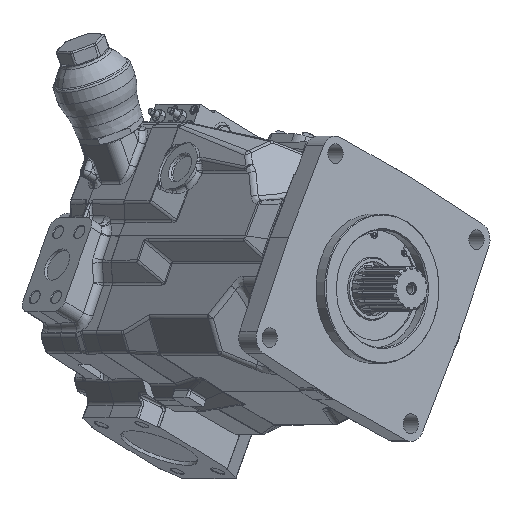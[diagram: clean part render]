
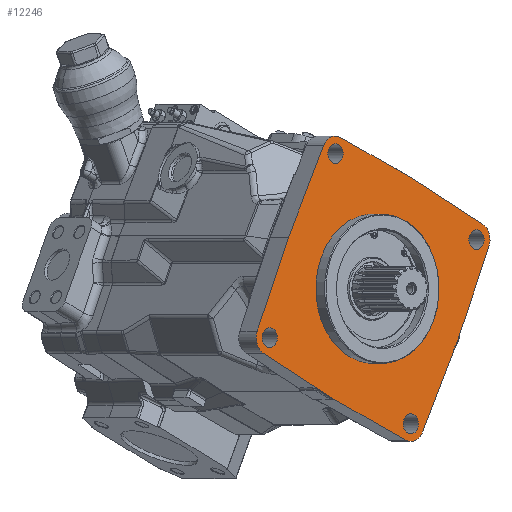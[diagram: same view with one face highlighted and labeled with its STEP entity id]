
A CAD part, top view. The second image highlights one B-rep face of the part: STEP entity #12246.
In plain terms, the highlighted planar face has unit normal (0.643, 0, 0.766) as drawn and (0, 1, 0) by its records, which use the part's own axes.
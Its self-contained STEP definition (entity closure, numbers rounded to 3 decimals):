
#1493=LINE('',#63303,#3785);
#1498=LINE('',#63377,#3790);
#1504=LINE('',#63561,#3796);
#1509=LINE('',#63585,#3801);
#1514=LINE('',#63831,#3806);
#1519=LINE('',#63864,#3811);
#1526=LINE('',#64028,#3818);
#1529=LINE('',#64101,#3821);
#3785=VECTOR('',#50872,1.);
#3790=VECTOR('',#50881,1.);
#3796=VECTOR('',#50893,1.);
#3801=VECTOR('',#50904,1.);
#3806=VECTOR('',#50913,1.);
#3811=VECTOR('',#50920,1.);
#3818=VECTOR('',#50933,1.);
#3821=VECTOR('',#50940,1.);
#6441=B_SPLINE_CURVE_WITH_KNOTS('',3,(#72012,#72013,#72014,#72015),.UNSPECIFIED.,
 .F.,.F.,(4,4),(0.,1.),.UNSPECIFIED.);
#6442=B_SPLINE_CURVE_WITH_KNOTS('',3,(#72078,#72079,#72080,#72081),.UNSPECIFIED.,
 .F.,.F.,(4,4),(0.,1.),.UNSPECIFIED.);
#12246=ADVANCED_FACE('',(#15428,#15429,#15430,#15431,#15432,#15433),#14580,
 .F.);
#14580=PLANE('',#46375);
#15428=FACE_BOUND('',#17196,.T.);
#15429=FACE_BOUND('',#17197,.T.);
#15430=FACE_BOUND('',#17198,.T.);
#15431=FACE_BOUND('',#17199,.T.);
#15432=FACE_BOUND('',#17200,.T.);
#15433=FACE_BOUND('',#17201,.T.);
#17196=EDGE_LOOP('',(#23268));
#17197=EDGE_LOOP('',(#23269));
#17198=EDGE_LOOP('',(#23270));
#17199=EDGE_LOOP('',(#23271));
#17200=EDGE_LOOP('',(#23272,#23273,#23274,#23275,#23276,#23277,#23278,#23279,
#23280,#23281,#23282,#23283,#23284,#23285));
#17201=EDGE_LOOP('',(#23286));
#23268=ORIENTED_EDGE('',*,*,#36871,.T.);
#23269=ORIENTED_EDGE('',*,*,#36873,.T.);
#23270=ORIENTED_EDGE('',*,*,#36875,.T.);
#23271=ORIENTED_EDGE('',*,*,#36877,.T.);
#23272=ORIENTED_EDGE('',*,*,#37457,.T.);
#23273=ORIENTED_EDGE('',*,*,#37083,.T.);
#23274=ORIENTED_EDGE('',*,*,#37048,.F.);
#23275=ORIENTED_EDGE('',*,*,#37451,.T.);
#23276=ORIENTED_EDGE('',*,*,#37057,.F.);
#23277=ORIENTED_EDGE('',*,*,#37026,.T.);
#23278=ORIENTED_EDGE('',*,*,#37453,.T.);
#23279=ORIENTED_EDGE('',*,*,#37013,.T.);
#23280=ORIENTED_EDGE('',*,*,#38444,.F.);
#23281=ORIENTED_EDGE('',*,*,#38447,.F.);
#23282=ORIENTED_EDGE('',*,*,#37108,.F.);
#23283=ORIENTED_EDGE('',*,*,#37455,.T.);
#23284=ORIENTED_EDGE('',*,*,#37121,.F.);
#23285=ORIENTED_EDGE('',*,*,#37090,.T.);
#23286=ORIENTED_EDGE('',*,*,#38459,.T.);
#32738=VERTEX_POINT('',#62979);
#32740=VERTEX_POINT('',#62984);
#32742=VERTEX_POINT('',#62989);
#32744=VERTEX_POINT('',#62994);
#32843=VERTEX_POINT('',#63302);
#32844=VERTEX_POINT('',#63304);
#32856=VERTEX_POINT('',#63376);
#32857=VERTEX_POINT('',#63378);
#32874=VERTEX_POINT('',#63560);
#32875=VERTEX_POINT('',#63562);
#32883=VERTEX_POINT('',#63586);
#32903=VERTEX_POINT('',#63832);
#32909=VERTEX_POINT('',#63863);
#32910=VERTEX_POINT('',#63865);
#32923=VERTEX_POINT('',#64027);
#32924=VERTEX_POINT('',#64029);
#32936=VERTEX_POINT('',#64102);
#33702=VERTEX_POINT('',#72011);
#33703=VERTEX_POINT('',#72244);
#36871=EDGE_CURVE('',#32738,#32738,#43110,.T.);
#36873=EDGE_CURVE('',#32740,#32740,#43112,.T.);
#36875=EDGE_CURVE('',#32742,#32742,#43114,.T.);
#36877=EDGE_CURVE('',#32744,#32744,#43116,.T.);
#37013=EDGE_CURVE('',#32844,#32843,#1493,.T.);
#37026=EDGE_CURVE('',#32857,#32856,#1498,.T.);
#37048=EDGE_CURVE('',#32874,#32875,#1504,.T.);
#37057=EDGE_CURVE('',#32857,#32883,#1509,.T.);
#37083=EDGE_CURVE('',#32903,#32875,#1514,.T.);
#37090=EDGE_CURVE('',#32910,#32909,#1519,.T.);
#37108=EDGE_CURVE('',#32923,#32924,#1526,.T.);
#37121=EDGE_CURVE('',#32910,#32936,#1529,.T.);
#37451=EDGE_CURVE('',#32874,#32883,#43163,.T.);
#37453=EDGE_CURVE('',#32856,#32844,#43165,.T.);
#37455=EDGE_CURVE('',#32923,#32936,#43167,.T.);
#37457=EDGE_CURVE('',#32909,#32903,#43169,.T.);
#38444=EDGE_CURVE('',#33702,#32843,#6441,.T.);
#38447=EDGE_CURVE('',#32924,#33702,#6442,.T.);
#38459=EDGE_CURVE('',#33703,#33703,#43517,.T.);
#43110=CIRCLE('',#45381,11.);
#43112=CIRCLE('',#45384,11.);
#43114=CIRCLE('',#45387,11.);
#43116=CIRCLE('',#45390,11.);
#43163=CIRCLE('',#45600,19.);
#43165=CIRCLE('',#45603,19.);
#43167=CIRCLE('',#45606,19.);
#43169=CIRCLE('',#45609,19.);
#43517=CIRCLE('',#46374,82.55);
#45381=AXIS2_PLACEMENT_3D('',#62978,#50591,#50592);
#45384=AXIS2_PLACEMENT_3D('',#62983,#50597,#50598);
#45387=AXIS2_PLACEMENT_3D('',#62988,#50603,#50604);
#45390=AXIS2_PLACEMENT_3D('',#62993,#50609,#50610);
#45600=AXIS2_PLACEMENT_3D('',#65535,#51334,#51335);
#45603=AXIS2_PLACEMENT_3D('',#65538,#51340,#51341);
#45606=AXIS2_PLACEMENT_3D('',#65541,#51346,#51347);
#45609=AXIS2_PLACEMENT_3D('',#65544,#51352,#51353);
#46374=AXIS2_PLACEMENT_3D('',#72243,#53198,#53199);
#46375=AXIS2_PLACEMENT_3D('',#72245,#53200,#53201);
#50591=DIRECTION('',(0.,-1.,0.));
#50592=DIRECTION('',(0.423,0.,-0.906));
#50597=DIRECTION('',(0.,-1.,0.));
#50598=DIRECTION('',(0.423,0.,-0.906));
#50603=DIRECTION('',(0.,-1.,0.));
#50604=DIRECTION('',(0.423,0.,-0.906));
#50609=DIRECTION('',(0.,-1.,0.));
#50610=DIRECTION('',(0.423,0.,-0.906));
#50872=DIRECTION('',(-0.446,0.,0.895));
#50881=DIRECTION('',(-0.917,0.,-0.399));
#50893=DIRECTION('',(-0.399,0.,0.917));
#50904=DIRECTION('',(0.895,0.,0.446));
#50913=DIRECTION('',(0.446,0.,-0.895));
#50920=DIRECTION('',(0.917,0.,0.399));
#50933=DIRECTION('',(0.399,0.,-0.917));
#50940=DIRECTION('',(-0.895,0.,-0.446));
#51334=DIRECTION('',(0.,1.,0.));
#51335=DIRECTION('',(0.423,0.,-0.906));
#51340=DIRECTION('',(0.,1.,0.));
#51341=DIRECTION('',(0.423,0.,-0.906));
#51346=DIRECTION('',(0.,1.,0.));
#51347=DIRECTION('',(0.423,0.,-0.906));
#51352=DIRECTION('',(0.,1.,0.));
#51353=DIRECTION('',(0.423,0.,-0.906));
#53198=DIRECTION('',(0.,-1.,0.));
#53199=DIRECTION('',(0.423,0.,-0.906));
#53200=DIRECTION('',(0.,-1.,0.));
#53201=DIRECTION('',(0.423,0.,-0.906));
#62978=CARTESIAN_POINT('',(-149.172,294.412,54.294));
#62979=CARTESIAN_POINT('',(-144.523,294.412,44.325));
#62983=CARTESIAN_POINT('',(-54.294,294.412,-149.172));
#62984=CARTESIAN_POINT('',(-49.645,294.412,-159.141));
#62988=CARTESIAN_POINT('',(149.172,294.412,-54.294));
#62989=CARTESIAN_POINT('',(153.821,294.412,-64.264));
#62993=CARTESIAN_POINT('',(54.294,294.412,149.172));
#62994=CARTESIAN_POINT('',(58.943,294.412,139.203));
#63302=CARTESIAN_POINT('',(-118.189,294.412,-64.281));
#63303=CARTESIAN_POINT('',(-63.396,294.412,-174.18));
#63304=CARTESIAN_POINT('',(-71.441,294.412,-158.044));
#63376=CARTESIAN_POINT('',(-46.861,294.412,-166.99));
#63377=CARTESIAN_POINT('',(56.842,294.412,-121.898));
#63378=CARTESIAN_POINT('',(56.842,294.412,-121.898));
#63560=CARTESIAN_POINT('',(166.99,294.412,-46.861));
#63561=CARTESIAN_POINT('',(174.18,294.412,-63.396));
#63562=CARTESIAN_POINT('',(121.898,294.412,56.842));
#63585=CARTESIAN_POINT('',(56.842,294.412,-121.898));
#63586=CARTESIAN_POINT('',(158.044,294.412,-71.441));
#63831=CARTESIAN_POINT('',(63.396,294.412,174.18));
#63832=CARTESIAN_POINT('',(71.441,294.412,158.044));
#63863=CARTESIAN_POINT('',(46.861,294.412,166.99));
#63864=CARTESIAN_POINT('',(-56.842,294.412,121.898));
#63865=CARTESIAN_POINT('',(-56.842,294.412,121.898));
#64027=CARTESIAN_POINT('',(-166.99,294.412,46.861));
#64028=CARTESIAN_POINT('',(-174.18,294.412,63.396));
#64029=CARTESIAN_POINT('',(-125.213,294.412,-49.219));
#64101=CARTESIAN_POINT('',(-56.842,294.412,121.898));
#64102=CARTESIAN_POINT('',(-158.044,294.412,71.441));
#65535=CARTESIAN_POINT('',(149.566,294.412,-54.437));
#65538=CARTESIAN_POINT('',(-54.437,294.412,-149.566));
#65541=CARTESIAN_POINT('',(-149.566,294.412,54.437));
#65544=CARTESIAN_POINT('',(54.437,294.412,149.566));
#72011=CARTESIAN_POINT('',(-122.237,294.412,-57.));
#72012=CARTESIAN_POINT('',(-122.237,294.412,-57.));
#72013=CARTESIAN_POINT('',(-121.012,294.412,-59.495));
#72014=CARTESIAN_POINT('',(-119.43,294.412,-61.793));
#72015=CARTESIAN_POINT('',(-118.189,294.412,-64.281));
#72078=CARTESIAN_POINT('',(-125.213,294.412,-49.219));
#72079=CARTESIAN_POINT('',(-124.104,294.412,-51.77));
#72080=CARTESIAN_POINT('',(-123.36,294.412,-54.46));
#72081=CARTESIAN_POINT('',(-122.237,294.412,-57.));
#72243=CARTESIAN_POINT('',(0.,294.412,0.));
#72244=CARTESIAN_POINT('',(34.887,294.412,-74.816));
#72245=CARTESIAN_POINT('',(28.234,294.412,77.572));
